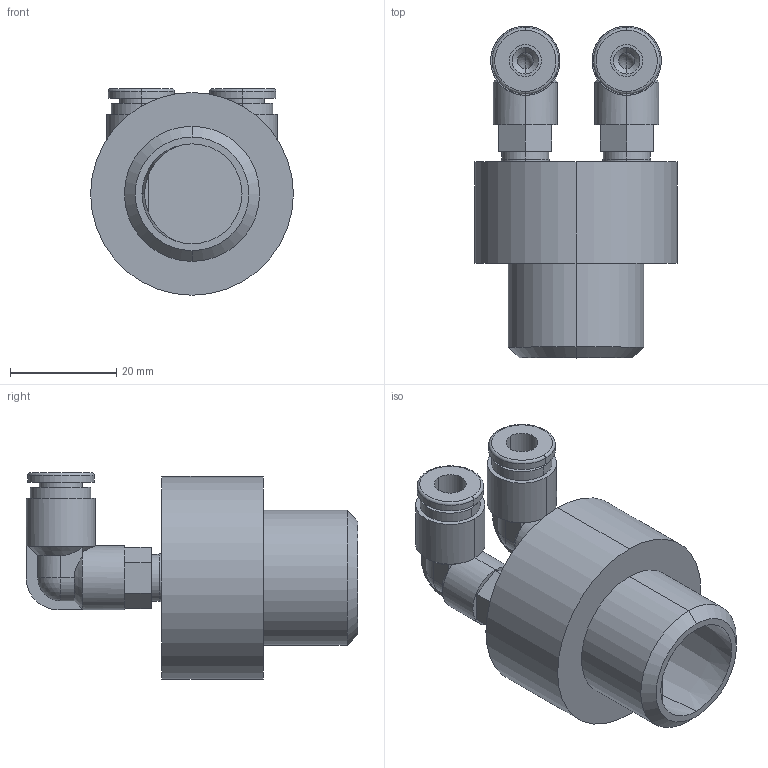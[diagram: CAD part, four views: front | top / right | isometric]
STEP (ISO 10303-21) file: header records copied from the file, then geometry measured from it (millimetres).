
FILE_DESCRIPTION (( 'STEP AP203' ), '1' );
FILE_NAME ('BD2-19-W-W_defeature.STEP', '2023-05-03T13:33:58', ( '' ), ( '' ), 'SwSTEP 2.0', 'SolidWorks 2023', '' );
FILE_SCHEMA (( 'CONFIG_CONTROL_DESIGN' ));
Length unit declared in the file: inch
Products named in the file (1): BD2-19-W-W_defeature
Bounding box: 38.1 x 62.35 x 38.8 mm (x, y, z)
Volume: 33918.2 mm3; surface area: 12971.5 mm2
Topology: 1 solids, 2 shells, 199 faces, 461 edges, 289 vertices
Faces by surface type: cylinder 78, plane 76, cone 24, bspline 9, torus 8, sphere 4
Entity records: 7879 total; most frequent: CARTESIAN_POINT 3394, ORIENTED_EDGE 922, DIRECTION 921, EDGE_CURVE 461, AXIS2_PLACEMENT_3D 367, VERTEX_POINT 289, EDGE_LOOP 224, ADVANCED_FACE 199
